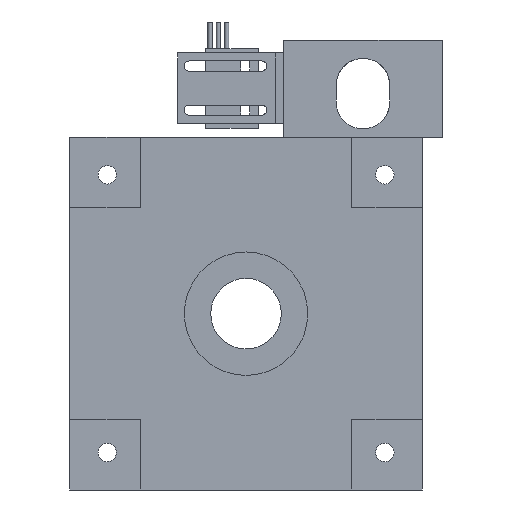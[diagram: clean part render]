
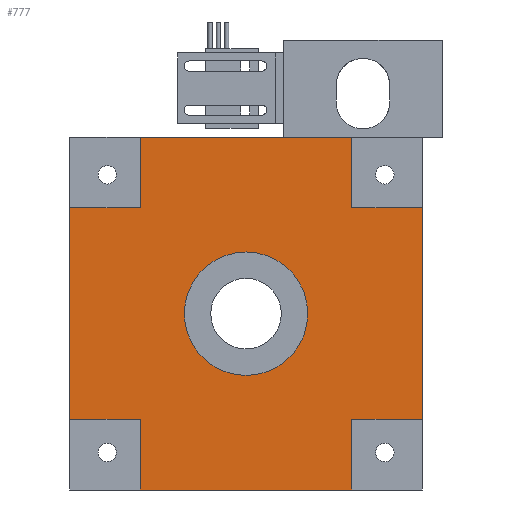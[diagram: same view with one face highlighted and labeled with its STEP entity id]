
A CAD part, front view. The second image highlights one B-rep face of the part: STEP entity #777.
In plain terms, the highlighted planar face has unit normal (0, -1, 0).
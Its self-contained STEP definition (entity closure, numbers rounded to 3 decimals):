
#67=CARTESIAN_POINT('',(0.,-34.713,0.));
#68=DIRECTION('',(0.,-1.,0.));
#69=DIRECTION('',(1.,0.,0.));
#70=AXIS2_PLACEMENT_3D('',#67,#68,#69);
#72=CARTESIAN_POINT('',(0.,-34.713,0.));
#73=DIRECTION('',(0.,-1.,0.));
#74=DIRECTION('',(-1.,0.,0.));
#75=AXIS2_PLACEMENT_3D('',#72,#73,#74);
#77=DIRECTION('',(-1.,0.,0.));
#78=VECTOR('',#77,25.4);
#79=CARTESIAN_POINT('',(63.5,-34.713,-38.1));
#80=LINE('',#79,#78);
#81=DIRECTION('',(0.,0.,1.));
#82=VECTOR('',#81,25.4);
#83=CARTESIAN_POINT('',(38.1,-34.713,-63.5));
#84=LINE('',#83,#82);
#85=DIRECTION('',(1.,0.,0.));
#86=VECTOR('',#85,76.2);
#87=CARTESIAN_POINT('',(-38.1,-34.713,-63.5));
#88=LINE('',#87,#86);
#89=DIRECTION('',(0.,0.,1.));
#90=VECTOR('',#89,25.4);
#91=CARTESIAN_POINT('',(-38.1,-34.713,-63.5));
#92=LINE('',#91,#90);
#93=DIRECTION('',(1.,0.,0.));
#94=VECTOR('',#93,25.4);
#95=CARTESIAN_POINT('',(-63.5,-34.713,-38.1));
#96=LINE('',#95,#94);
#97=DIRECTION('',(0.,0.,-1.));
#98=VECTOR('',#97,76.2);
#99=CARTESIAN_POINT('',(-63.5,-34.713,38.1));
#100=LINE('',#99,#98);
#101=DIRECTION('',(1.,0.,0.));
#102=VECTOR('',#101,25.4);
#103=CARTESIAN_POINT('',(-63.5,-34.713,38.1));
#104=LINE('',#103,#102);
#105=DIRECTION('',(0.,0.,-1.));
#106=VECTOR('',#105,25.4);
#107=CARTESIAN_POINT('',(-38.1,-34.713,63.5));
#108=LINE('',#107,#106);
#109=DIRECTION('',(-1.,0.,0.));
#110=VECTOR('',#109,76.2);
#111=CARTESIAN_POINT('',(38.1,-34.713,63.5));
#112=LINE('',#111,#110);
#113=DIRECTION('',(0.,0.,-1.));
#114=VECTOR('',#113,25.4);
#115=CARTESIAN_POINT('',(38.1,-34.713,63.5));
#116=LINE('',#115,#114);
#117=DIRECTION('',(-1.,0.,0.));
#118=VECTOR('',#117,25.4);
#119=CARTESIAN_POINT('',(63.5,-34.713,38.1));
#120=LINE('',#119,#118);
#121=DIRECTION('',(0.,0.,1.));
#122=VECTOR('',#121,76.2);
#123=CARTESIAN_POINT('',(63.5,-34.713,-38.1));
#124=LINE('',#123,#122);
#583=CARTESIAN_POINT('',(22.225,-34.713,0.));
#584=CARTESIAN_POINT('',(-22.225,-34.713,0.));
#585=VERTEX_POINT('',#583);
#586=VERTEX_POINT('',#584);
#608=CARTESIAN_POINT('',(-63.5,-34.713,38.1));
#609=CARTESIAN_POINT('',(-38.1,-34.713,38.1));
#610=VERTEX_POINT('',#608);
#611=VERTEX_POINT('',#609);
#612=CARTESIAN_POINT('',(-38.1,-34.713,63.5));
#613=VERTEX_POINT('',#612);
#622=CARTESIAN_POINT('',(63.5,-34.713,38.1));
#623=CARTESIAN_POINT('',(38.1,-34.713,38.1));
#624=VERTEX_POINT('',#622);
#625=VERTEX_POINT('',#623);
#626=CARTESIAN_POINT('',(38.1,-34.713,63.5));
#627=VERTEX_POINT('',#626);
#636=CARTESIAN_POINT('',(-63.5,-34.713,-38.1));
#637=CARTESIAN_POINT('',(-38.1,-34.713,-38.1));
#638=VERTEX_POINT('',#636);
#639=VERTEX_POINT('',#637);
#640=CARTESIAN_POINT('',(-38.1,-34.713,-63.5));
#641=VERTEX_POINT('',#640);
#650=CARTESIAN_POINT('',(63.5,-34.713,-38.1));
#651=CARTESIAN_POINT('',(38.1,-34.713,-38.1));
#652=VERTEX_POINT('',#650);
#653=VERTEX_POINT('',#651);
#654=CARTESIAN_POINT('',(38.1,-34.713,-63.5));
#655=VERTEX_POINT('',#654);
#741=CARTESIAN_POINT('',(0.,-34.713,0.));
#742=DIRECTION('',(0.,-1.,0.));
#743=DIRECTION('',(0.,0.,-1.));
#744=AXIS2_PLACEMENT_3D('',#741,#742,#743);
#745=PLANE('',#744);
#747=ORIENTED_EDGE('',*,*,#746,.T.);
#749=ORIENTED_EDGE('',*,*,#748,.F.);
#751=ORIENTED_EDGE('',*,*,#750,.F.);
#753=ORIENTED_EDGE('',*,*,#752,.T.);
#755=ORIENTED_EDGE('',*,*,#754,.F.);
#756=ORIENTED_EDGE('',*,*,#723,.F.);
#758=ORIENTED_EDGE('',*,*,#757,.T.);
#760=ORIENTED_EDGE('',*,*,#759,.F.);
#762=ORIENTED_EDGE('',*,*,#761,.F.);
#764=ORIENTED_EDGE('',*,*,#763,.T.);
#766=ORIENTED_EDGE('',*,*,#765,.F.);
#768=ORIENTED_EDGE('',*,*,#767,.F.);
#769=EDGE_LOOP('',(#747,#749,#751,#753,#755,#756,#758,#760,#762,#764,#766,
#768));
#770=FACE_OUTER_BOUND('',#769,.F.);
#772=ORIENTED_EDGE('',*,*,#771,.T.);
#774=ORIENTED_EDGE('',*,*,#773,.T.);
#775=EDGE_LOOP('',(#772,#774));
#776=FACE_BOUND('',#775,.F.);
#777=ADVANCED_FACE('',(#770,#776),#745,.T.);
#71=CIRCLE('',#70,22.225);
#76=CIRCLE('',#75,22.225);
#723=EDGE_CURVE('',#610,#638,#100,.T.);
#746=EDGE_CURVE('',#652,#653,#80,.T.);
#748=EDGE_CURVE('',#655,#653,#84,.T.);
#750=EDGE_CURVE('',#641,#655,#88,.T.);
#752=EDGE_CURVE('',#641,#639,#92,.T.);
#754=EDGE_CURVE('',#638,#639,#96,.T.);
#757=EDGE_CURVE('',#610,#611,#104,.T.);
#759=EDGE_CURVE('',#613,#611,#108,.T.);
#761=EDGE_CURVE('',#627,#613,#112,.T.);
#763=EDGE_CURVE('',#627,#625,#116,.T.);
#765=EDGE_CURVE('',#624,#625,#120,.T.);
#767=EDGE_CURVE('',#652,#624,#124,.T.);
#771=EDGE_CURVE('',#585,#586,#71,.T.);
#773=EDGE_CURVE('',#586,#585,#76,.T.);
